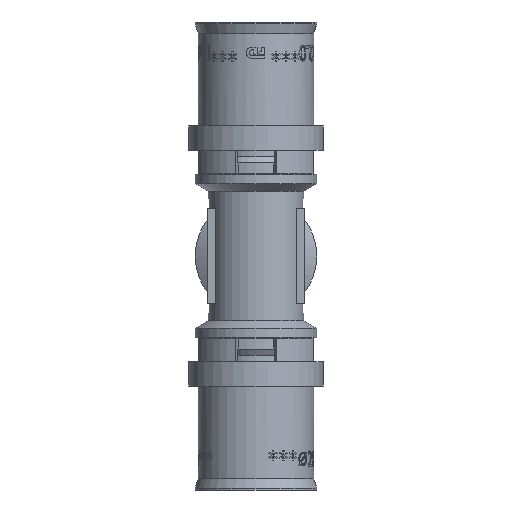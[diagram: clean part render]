
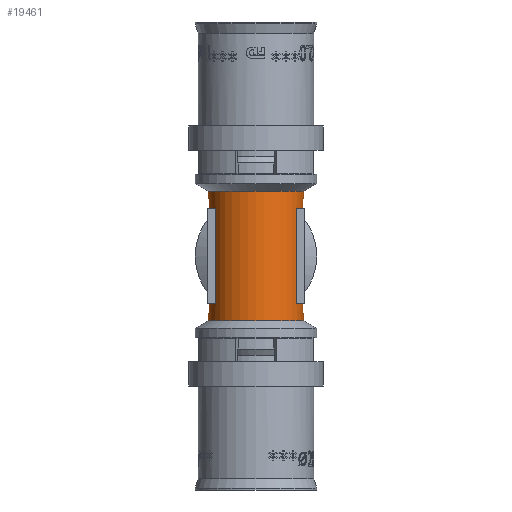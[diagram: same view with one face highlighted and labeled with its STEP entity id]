
A CAD part, front view. The second image highlights one B-rep face of the part: STEP entity #19461.
In plain terms, the highlighted cylindrical face has radius 9 mm (diameter 18 mm), a full revolution.
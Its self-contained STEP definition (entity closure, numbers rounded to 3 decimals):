
#54=ELLIPSE('',#20512,12.728,9.);
#55=ELLIPSE('',#20514,12.728,9.);
#56=ELLIPSE('',#20516,12.728,9.);
#2017=FACE_BOUND('',#3981,.T.);
#2851=FACE_OUTER_BOUND('',#3980,.T.);
#3980=EDGE_LOOP('',(#15486,#15487,#15488,#15489,#15490,#15491));
#3981=EDGE_LOOP('',(#15492,#15493,#15494,#15495,#15496,#15497,#15498,#15499,
#15500,#15501,#15502,#15503,#15504));
#5170=LINE('',#34593,#6370);
#5171=LINE('',#34599,#6371);
#5172=LINE('',#34603,#6372);
#5173=LINE('',#34606,#6373);
#5174=LINE('',#34608,#6374);
#5175=LINE('',#34612,#6375);
#5176=LINE('',#34615,#6376);
#6370=VECTOR('',#22767,9.);
#6371=VECTOR('',#22774,10.);
#6372=VECTOR('',#22777,10.);
#6373=VECTOR('',#22780,10.);
#6374=VECTOR('',#22781,10.);
#6375=VECTOR('',#22784,10.);
#6376=VECTOR('',#22787,10.);
#7315=CIRCLE('',#20640,9.);
#7316=CIRCLE('',#20641,9.);
#7317=CIRCLE('',#20642,9.);
#7318=CIRCLE('',#20643,9.);
#7319=CIRCLE('',#20644,9.);
#7320=CIRCLE('',#20645,9.);
#7321=CIRCLE('',#20646,9.);
#7322=CIRCLE('',#20647,9.);
#8509=VERTEX_POINT('',#34339);
#8510=VERTEX_POINT('',#34341);
#8513=VERTEX_POINT('',#34347);
#8514=VERTEX_POINT('',#34349);
#8517=VERTEX_POINT('',#34355);
#8598=VERTEX_POINT('',#34589);
#8599=VERTEX_POINT('',#34590);
#8600=VERTEX_POINT('',#34592);
#8601=VERTEX_POINT('',#34594);
#8602=VERTEX_POINT('',#34598);
#8603=VERTEX_POINT('',#34600);
#8604=VERTEX_POINT('',#34602);
#8605=VERTEX_POINT('',#34604);
#8606=VERTEX_POINT('',#34607);
#8607=VERTEX_POINT('',#34609);
#8608=VERTEX_POINT('',#34611);
#8609=VERTEX_POINT('',#34613);
#10979=EDGE_CURVE('',#8510,#8509,#54,.T.);
#10983=EDGE_CURVE('',#8514,#8513,#55,.T.);
#10987=EDGE_CURVE('',#8509,#8517,#56,.T.);
#11097=EDGE_CURVE('',#8598,#8599,#7315,.T.);
#11098=EDGE_CURVE('',#8598,#8600,#5170,.T.);
#11099=EDGE_CURVE('',#8600,#8601,#7316,.T.);
#11100=EDGE_CURVE('',#8601,#8600,#7317,.T.);
#11101=EDGE_CURVE('',#8599,#8598,#7318,.T.);
#11102=EDGE_CURVE('',#8602,#8517,#5171,.T.);
#11103=EDGE_CURVE('',#8603,#8602,#7319,.T.);
#11104=EDGE_CURVE('',#8604,#8603,#5172,.T.);
#11105=EDGE_CURVE('',#8605,#8604,#7320,.T.);
#11106=EDGE_CURVE('',#8514,#8605,#5173,.T.);
#11107=EDGE_CURVE('',#8606,#8513,#5174,.T.);
#11108=EDGE_CURVE('',#8607,#8606,#7321,.T.);
#11109=EDGE_CURVE('',#8608,#8607,#5175,.T.);
#11110=EDGE_CURVE('',#8609,#8608,#7322,.T.);
#11111=EDGE_CURVE('',#8510,#8609,#5176,.T.);
#15486=ORIENTED_EDGE('',*,*,#11097,.F.);
#15487=ORIENTED_EDGE('',*,*,#11098,.T.);
#15488=ORIENTED_EDGE('',*,*,#11099,.T.);
#15489=ORIENTED_EDGE('',*,*,#11100,.T.);
#15490=ORIENTED_EDGE('',*,*,#11098,.F.);
#15491=ORIENTED_EDGE('',*,*,#11101,.F.);
#15492=ORIENTED_EDGE('',*,*,#10979,.T.);
#15493=ORIENTED_EDGE('',*,*,#10987,.T.);
#15494=ORIENTED_EDGE('',*,*,#11102,.F.);
#15495=ORIENTED_EDGE('',*,*,#11103,.F.);
#15496=ORIENTED_EDGE('',*,*,#11104,.F.);
#15497=ORIENTED_EDGE('',*,*,#11105,.F.);
#15498=ORIENTED_EDGE('',*,*,#11106,.F.);
#15499=ORIENTED_EDGE('',*,*,#10983,.T.);
#15500=ORIENTED_EDGE('',*,*,#11107,.F.);
#15501=ORIENTED_EDGE('',*,*,#11108,.F.);
#15502=ORIENTED_EDGE('',*,*,#11109,.F.);
#15503=ORIENTED_EDGE('',*,*,#11110,.F.);
#15504=ORIENTED_EDGE('',*,*,#11111,.F.);
#18896=CYLINDRICAL_SURFACE('',#20639,9.);
#19461=ADVANCED_FACE('',(#2851,#2017),#18896,.T.);
#20512=AXIS2_PLACEMENT_3D('',#34342,#22477,#22478);
#20514=AXIS2_PLACEMENT_3D('',#34350,#22483,#22484);
#20516=AXIS2_PLACEMENT_3D('',#34357,#22489,#22490);
#20639=AXIS2_PLACEMENT_3D('',#34588,#22763,#22764);
#20640=AXIS2_PLACEMENT_3D('',#34591,#22765,#22766);
#20641=AXIS2_PLACEMENT_3D('',#34595,#22768,#22769);
#20642=AXIS2_PLACEMENT_3D('',#34596,#22770,#22771);
#20643=AXIS2_PLACEMENT_3D('',#34597,#22772,#22773);
#20644=AXIS2_PLACEMENT_3D('',#34601,#22775,#22776);
#20645=AXIS2_PLACEMENT_3D('',#34605,#22778,#22779);
#20646=AXIS2_PLACEMENT_3D('',#34610,#22782,#22783);
#20647=AXIS2_PLACEMENT_3D('',#34614,#22785,#22786);
#22477=DIRECTION('center_axis',(0.,-0.707,-0.707));
#22478=DIRECTION('ref_axis',(0.,-0.707,0.707));
#22483=DIRECTION('center_axis',(0.,-0.707,0.707));
#22484=DIRECTION('ref_axis',(0.,0.707,0.707));
#22489=DIRECTION('center_axis',(0.,-0.707,-0.707));
#22490=DIRECTION('ref_axis',(0.,-0.707,0.707));
#22763=DIRECTION('center_axis',(0.,0.,-1.));
#22764=DIRECTION('ref_axis',(0.,1.,0.));
#22765=DIRECTION('center_axis',(0.,0.,-1.));
#22766=DIRECTION('ref_axis',(1.,0.,0.));
#22767=DIRECTION('',(0.,0.,1.));
#22768=DIRECTION('center_axis',(0.,0.,-1.));
#22769=DIRECTION('ref_axis',(1.,0.,0.));
#22770=DIRECTION('center_axis',(0.,0.,-1.));
#22771=DIRECTION('ref_axis',(1.,0.,0.));
#22772=DIRECTION('center_axis',(0.,0.,-1.));
#22773=DIRECTION('ref_axis',(1.,0.,0.));
#22774=DIRECTION('',(0.,0.,1.));
#22775=DIRECTION('center_axis',(0.,0.,1.));
#22776=DIRECTION('ref_axis',(0.,1.,0.));
#22777=DIRECTION('',(0.,0.,-1.));
#22778=DIRECTION('center_axis',(0.,0.,-1.));
#22779=DIRECTION('ref_axis',(0.,1.,0.));
#22780=DIRECTION('',(0.,0.,1.));
#22781=DIRECTION('',(0.,0.,-1.));
#22782=DIRECTION('center_axis',(0.,0.,-1.));
#22783=DIRECTION('ref_axis',(0.,1.,0.));
#22784=DIRECTION('',(0.,0.,1.));
#22785=DIRECTION('center_axis',(0.,0.,1.));
#22786=DIRECTION('ref_axis',(0.,1.,0.));
#22787=DIRECTION('',(0.,0.,-1.));
#34339=CARTESIAN_POINT('',(0.,9.,34.5));
#34341=CARTESIAN_POINT('',(-7.644,4.75,38.75));
#34342=CARTESIAN_POINT('Origin',(0.,0.,43.5));
#34347=CARTESIAN_POINT('',(-7.644,4.75,48.25));
#34349=CARTESIAN_POINT('',(7.644,4.75,48.25));
#34350=CARTESIAN_POINT('Origin',(0.,0.,43.5));
#34355=CARTESIAN_POINT('',(7.644,4.75,38.75));
#34357=CARTESIAN_POINT('Origin',(0.,0.,43.5));
#34588=CARTESIAN_POINT('Origin',(0.,0.,49.628));
#34589=CARTESIAN_POINT('',(0.,-9.,31.243));
#34590=CARTESIAN_POINT('',(0.,9.,31.243));
#34591=CARTESIAN_POINT('Origin',(0.,0.,31.243));
#34592=CARTESIAN_POINT('',(0.,-9.,55.757));
#34593=CARTESIAN_POINT('',(0.,-9.,49.628));
#34594=CARTESIAN_POINT('',(0.,9.,55.757));
#34595=CARTESIAN_POINT('Origin',(0.,0.,55.757));
#34596=CARTESIAN_POINT('Origin',(0.,0.,55.757));
#34597=CARTESIAN_POINT('Origin',(0.,0.,31.243));
#34598=CARTESIAN_POINT('',(7.644,4.75,34.5));
#34599=CARTESIAN_POINT('',(7.644,4.75,49.628));
#34600=CARTESIAN_POINT('',(7.644,-4.75,34.5));
#34601=CARTESIAN_POINT('Origin',(0.,0.,34.5));
#34602=CARTESIAN_POINT('',(7.644,-4.75,52.5));
#34603=CARTESIAN_POINT('',(7.644,-4.75,49.628));
#34604=CARTESIAN_POINT('',(7.644,4.75,52.5));
#34605=CARTESIAN_POINT('Origin',(0.,0.,52.5));
#34606=CARTESIAN_POINT('',(7.644,4.75,49.628));
#34607=CARTESIAN_POINT('',(-7.644,4.75,52.5));
#34608=CARTESIAN_POINT('',(-7.644,4.75,49.628));
#34609=CARTESIAN_POINT('',(-7.644,-4.75,52.5));
#34610=CARTESIAN_POINT('Origin',(0.,0.,52.5));
#34611=CARTESIAN_POINT('',(-7.644,-4.75,34.5));
#34612=CARTESIAN_POINT('',(-7.644,-4.75,49.628));
#34613=CARTESIAN_POINT('',(-7.644,4.75,34.5));
#34614=CARTESIAN_POINT('Origin',(0.,0.,34.5));
#34615=CARTESIAN_POINT('',(-7.644,4.75,49.628));
